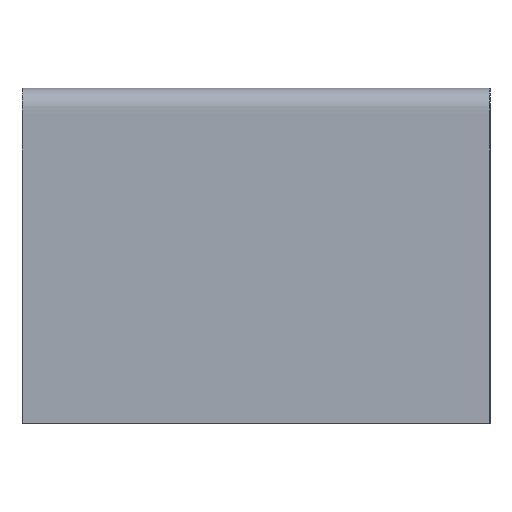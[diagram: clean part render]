
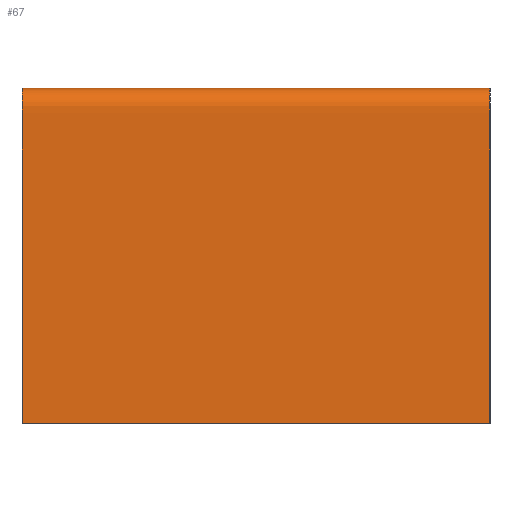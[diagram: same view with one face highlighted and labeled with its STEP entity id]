
A CAD part, left-side view. The second image highlights one B-rep face of the part: STEP entity #67.
In plain terms, the highlighted free-form (B-spline) face has degree [1, 2] with [2, 11] control points.
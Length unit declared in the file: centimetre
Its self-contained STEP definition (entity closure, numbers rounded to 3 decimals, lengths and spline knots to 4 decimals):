
#11=(
BOUNDED_SURFACE()
B_SPLINE_SURFACE(1,2,((#1067,#1068,#1069,#1070,#1071,#1072,#1073,#1074,#1075,
#1076,#1077),(#1078,#1079,#1080,#1081,#1082,#1083,#1084,#1085,#1086,#1087,
#1088)),.UNSPECIFIED.,.F.,.F.,.F.)
B_SPLINE_SURFACE_WITH_KNOTS((2,2),(3,2,2,2,2,3),(0.,60.),(-760.5934,
-720.2934,-717.9372,-603.3372,-600.981,
-560.681),.UNSPECIFIED.)
GEOMETRIC_REPRESENTATION_ITEM()
RATIONAL_B_SPLINE_SURFACE(((1.,1.,1.,0.707,1.,1.,1.,0.707,
1.,1.,1.),(1.,1.,1.,0.707,1.,1.,1.,0.707,1.,1.,1.)))
REPRESENTATION_ITEM($)
SURFACE()
);
#15=(
BOUNDED_CURVE()
B_SPLINE_CURVE(2,(#1030,#1031,#1032,#1033,#1034,#1035,#1036,#1037,#1038,
#1039,#1040),.UNSPECIFIED.,.F.,.F.)
B_SPLINE_CURVE_WITH_KNOTS((3,2,2,2,2,3),(560.681,600.981,
603.3372,717.9372,720.2934,760.5934),.UNSPECIFIED.)
CURVE()
GEOMETRIC_REPRESENTATION_ITEM()
RATIONAL_B_SPLINE_CURVE((1.,1.,1.,0.707,1.,1.,1.,0.707,
1.,1.,1.))
REPRESENTATION_ITEM($)
);
#16=(
BOUNDED_CURVE()
B_SPLINE_CURVE(2,(#1045,#1046,#1047,#1048,#1049,#1050,#1051,#1052,#1053,
#1054,#1055),.UNSPECIFIED.,.F.,.F.)
B_SPLINE_CURVE_WITH_KNOTS((3,2,2,2,2,3),(560.681,600.981,
603.3372,717.9372,720.2934,760.5934),.UNSPECIFIED.)
CURVE()
GEOMETRIC_REPRESENTATION_ITEM()
RATIONAL_B_SPLINE_CURVE((1.,1.,1.,0.707,1.,1.,1.,0.707,
1.,1.,1.))
REPRESENTATION_ITEM($)
);
#67=ADVANCED_FACE($,(#107),#11,.T.);
#107=FACE_OUTER_BOUND($,#147,.T.);
#147=EDGE_LOOP($,(#306,#307,#308,#309));
#306=ORIENTED_EDGE($,*,*,#394,.T.);
#307=ORIENTED_EDGE($,*,*,#399,.T.);
#308=ORIENTED_EDGE($,*,*,#397,.F.);
#309=ORIENTED_EDGE($,*,*,#400,.F.);
#394=EDGE_CURVE($,#453,#452,#15,.T.);
#397=EDGE_CURVE($,#456,#455,#16,.T.);
#399=EDGE_CURVE($,#452,#455,#573,.T.);
#400=EDGE_CURVE($,#453,#456,#574,.T.);
#452=VERTEX_POINT($,#1114);
#453=VERTEX_POINT($,#1115);
#455=VERTEX_POINT($,#1117);
#456=VERTEX_POINT($,#1118);
#573=B_SPLINE_CURVE_WITH_KNOTS($,1,(#1058,#1059),.UNSPECIFIED.,.F.,.F.,(2,
2),(0.,60.),.UNSPECIFIED.);
#574=B_SPLINE_CURVE_WITH_KNOTS($,1,(#1060,#1061),.UNSPECIFIED.,.F.,.F.,(2,
2),(0.,60.),.UNSPECIFIED.);
#1030=CARTESIAN_POINT($,(0.,0.,0.));
#1031=CARTESIAN_POINT($,(0.,0.,20.15));
#1032=CARTESIAN_POINT($,(0.,0.,40.3));
#1033=CARTESIAN_POINT($,(0.,0.,43.));
#1034=CARTESIAN_POINT($,(2.7,0.,43.));
#1035=CARTESIAN_POINT($,(60.,0.,43.));
#1036=CARTESIAN_POINT($,(117.3,0.,43.));
#1037=CARTESIAN_POINT($,(120.,0.,43.));
#1038=CARTESIAN_POINT($,(120.,0.,40.3));
#1039=CARTESIAN_POINT($,(120.,0.,20.15));
#1040=CARTESIAN_POINT($,(120.,0.,0.));
#1045=CARTESIAN_POINT($,(0.,60.,0.));
#1046=CARTESIAN_POINT($,(0.,60.,20.15));
#1047=CARTESIAN_POINT($,(0.,60.,40.3));
#1048=CARTESIAN_POINT($,(0.,60.,43.));
#1049=CARTESIAN_POINT($,(2.7,60.,43.));
#1050=CARTESIAN_POINT($,(60.,60.,43.));
#1051=CARTESIAN_POINT($,(117.3,60.,43.));
#1052=CARTESIAN_POINT($,(120.,60.,43.));
#1053=CARTESIAN_POINT($,(120.,60.,40.3));
#1054=CARTESIAN_POINT($,(120.,60.,20.15));
#1055=CARTESIAN_POINT($,(120.,60.,0.));
#1058=CARTESIAN_POINT($,(120.,0.,0.));
#1059=CARTESIAN_POINT($,(120.,60.,0.));
#1060=CARTESIAN_POINT($,(0.,0.,0.));
#1061=CARTESIAN_POINT($,(0.,60.,0.));
#1067=CARTESIAN_POINT($,(120.,0.,0.));
#1068=CARTESIAN_POINT($,(120.,0.,20.15));
#1069=CARTESIAN_POINT($,(120.,0.,40.3));
#1070=CARTESIAN_POINT($,(120.,0.,43.));
#1071=CARTESIAN_POINT($,(117.3,0.,43.));
#1072=CARTESIAN_POINT($,(60.,0.,43.));
#1073=CARTESIAN_POINT($,(2.7,0.,43.));
#1074=CARTESIAN_POINT($,(0.,0.,43.));
#1075=CARTESIAN_POINT($,(0.,0.,40.3));
#1076=CARTESIAN_POINT($,(0.,0.,20.15));
#1077=CARTESIAN_POINT($,(0.,0.,0.));
#1078=CARTESIAN_POINT($,(120.,60.,0.));
#1079=CARTESIAN_POINT($,(120.,60.,20.15));
#1080=CARTESIAN_POINT($,(120.,60.,40.3));
#1081=CARTESIAN_POINT($,(120.,60.,43.));
#1082=CARTESIAN_POINT($,(117.3,60.,43.));
#1083=CARTESIAN_POINT($,(60.,60.,43.));
#1084=CARTESIAN_POINT($,(2.7,60.,43.));
#1085=CARTESIAN_POINT($,(0.,60.,43.));
#1086=CARTESIAN_POINT($,(0.,60.,40.3));
#1087=CARTESIAN_POINT($,(0.,60.,20.15));
#1088=CARTESIAN_POINT($,(0.,60.,0.));
#1114=CARTESIAN_POINT($,(120.,0.,0.));
#1115=CARTESIAN_POINT($,(0.,0.,0.));
#1117=CARTESIAN_POINT($,(120.,60.,0.));
#1118=CARTESIAN_POINT($,(0.,60.,0.));
